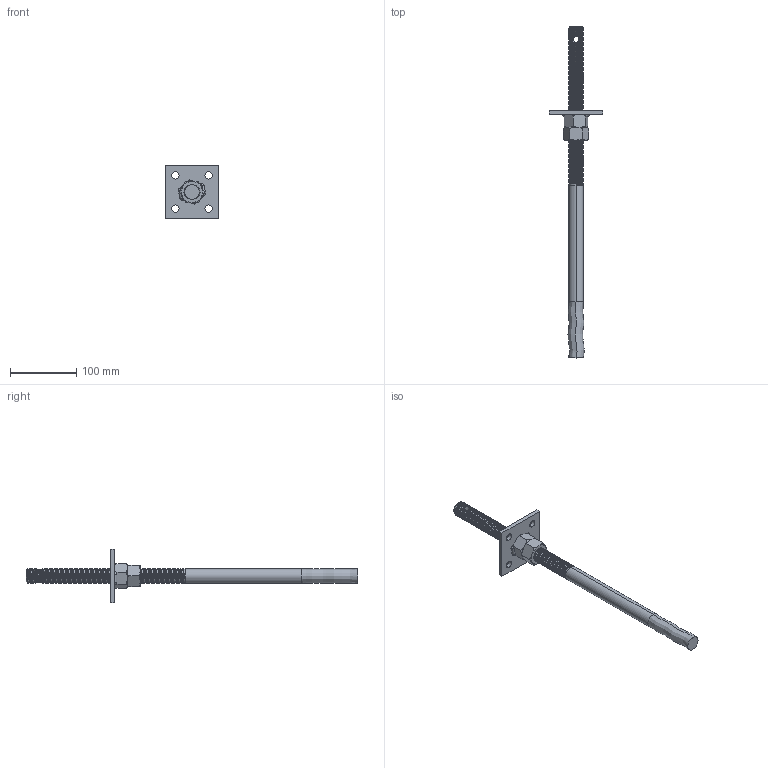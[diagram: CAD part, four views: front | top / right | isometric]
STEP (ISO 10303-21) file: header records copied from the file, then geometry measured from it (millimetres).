
FILE_DESCRIPTION (( 'STEP AP203' ), '1' );
FILE_NAME ('19621080.STEP', '2021-08-30T11:09:44', ( '' ), ( '' ), 'SwSTEP 2.0', 'SolidWorks 2013', '' );
FILE_SCHEMA (( 'CONFIG_CONTROL_DESIGN' ));
Length unit declared in the file: millimetre
Products named in the file (6): Schweissnaht fuer M22; 19621080; Gewindestange M22; 80x80x6-4xd11-1xd23; Sechskantmutter M22 standard
Assembly tree (7 placements, depth 2):
  19621080
    Gewindestange M22
    Gewindestange M22
    Sechskantmutter M22 standard  x2
    Schweissnaht fuer M22  x2
    80x80x6-4xd11-1xd23
Bounding box: 80 x 500 x 80 mm (x, y, z)
Volume: 231516.3 mm3; surface area: 69421.6 mm2
Topology: 7 solids, 7 shells, 286 faces, 822 edges, 545 vertices
Faces by surface type: cylinder 211, plane 31, bspline 30, torus 8, sphere 4, cone 2
Entity records: 91769 total; most frequent: CARTESIAN_POINT 85474, ORIENTED_EDGE 1544, DIRECTION 820, EDGE_CURVE 772, VERTEX_POINT 513, AXIS2_PLACEMENT_3D 299, EDGE_LOOP 279, FACE_OUTER_BOUND 267
